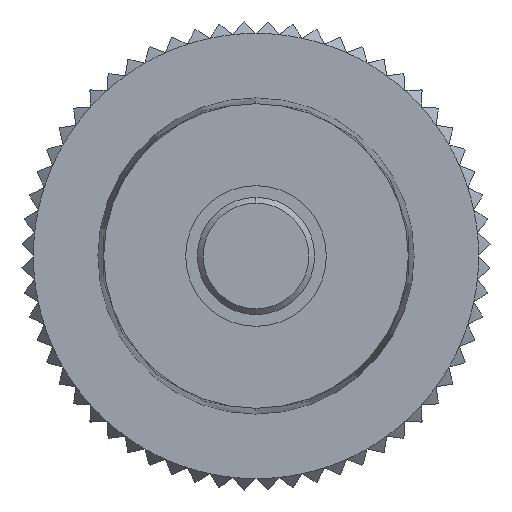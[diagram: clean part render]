
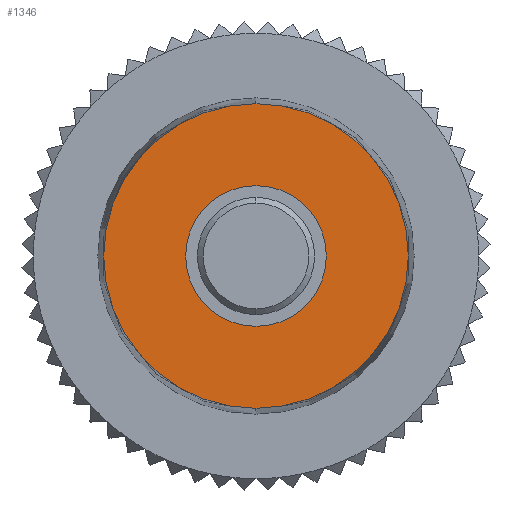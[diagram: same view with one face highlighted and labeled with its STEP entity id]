
A CAD part, front view. The second image highlights one B-rep face of the part: STEP entity #1346.
In plain terms, the highlighted planar face has unit normal (0, -1, 0).
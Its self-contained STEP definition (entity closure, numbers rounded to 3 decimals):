
#1346 = ADVANCED_FACE ( 'NONE', ( #5452, #5450 ), #5502, .T. ) ;
#1347 = EDGE_LOOP ( 'NONE', ( #1348, #1350 ) ) ;
#1348 = ORIENTED_EDGE ( 'NONE', *, *, #1349, .F. ) ;
#1349 = EDGE_CURVE ( 'NONE', #2440, #2493, #5492, .T. ) ;
#1350 = ORIENTED_EDGE ( 'NONE', *, *, #2439, .F. ) ;
#1351 = EDGE_LOOP ( 'NONE', ( #1412, #1414 ) ) ;
#1412 = ORIENTED_EDGE ( 'NONE', *, *, #1413, .T. ) ;
#1413 = EDGE_CURVE ( 'NONE', #2426, #2425, #5505, .T. ) ;
#1414 = ORIENTED_EDGE ( 'NONE', *, *, #2424, .T. ) ;
#2424 = EDGE_CURVE ( 'NONE', #2425, #2426, #6811, .T. ) ;
#2425 = VERTEX_POINT ( 'NONE', #6806 ) ;
#2426 = VERTEX_POINT ( 'NONE', #6805 ) ;
#2439 = EDGE_CURVE ( 'NONE', #2493, #2440, #6787, .T. ) ;
#2440 = VERTEX_POINT ( 'NONE', #6845 ) ;
#2493 = VERTEX_POINT ( 'NONE', #6909 ) ;
#5450 = FACE_OUTER_BOUND ( 'NONE', #1351, .T. ) ;
#5452 = FACE_BOUND ( 'NONE', #1347, .T. ) ;
#5489 = DIRECTION ( 'NONE',  ( 0., 0., -1. ) ) ;
#5490 = DIRECTION ( 'NONE',  ( 0., -1., 0. ) ) ;
#5491 = AXIS2_PLACEMENT_3D ( 'NONE', #5497, #5490, #5489 ) ;
#5492 = CIRCLE ( 'NONE', #5491, 3. ) ;
#5493 = DIRECTION ( 'NONE',  ( 0., 0., -1. ) ) ;
#5494 = DIRECTION ( 'NONE',  ( 0., -1., 0. ) ) ;
#5495 = CARTESIAN_POINT ( 'NONE',  ( 0., 0., 0. ) ) ;
#5496 = AXIS2_PLACEMENT_3D ( 'NONE', #5495, #5494, #5493 ) ;
#5497 = CARTESIAN_POINT ( 'NONE',  ( 0., 0., 0. ) ) ;
#5502 = PLANE ( 'NONE',  #5496 ) ;
#5503 = DIRECTION ( 'NONE',  ( 0., -1., 0. ) ) ;
#5504 = AXIS2_PLACEMENT_3D ( 'NONE', #5509, #5503, #5565 ) ;
#5505 = CIRCLE ( 'NONE', #5504, 6.5 ) ;
#5509 = CARTESIAN_POINT ( 'NONE',  ( 0., 0., 0. ) ) ;
#5565 = DIRECTION ( 'NONE',  ( 0., 0., -1. ) ) ;
#6787 = CIRCLE ( 'NONE', #6849, 3. ) ;
#6805 = CARTESIAN_POINT ( 'NONE',  ( 0., 0., 6.5 ) ) ;
#6806 = CARTESIAN_POINT ( 'NONE',  ( 0., 0., -6.5 ) ) ;
#6807 = DIRECTION ( 'NONE',  ( 0., 0., -1. ) ) ;
#6808 = DIRECTION ( 'NONE',  ( 0., -1., 0. ) ) ;
#6809 = CARTESIAN_POINT ( 'NONE',  ( 0., 0., 0. ) ) ;
#6810 = AXIS2_PLACEMENT_3D ( 'NONE', #6809, #6808, #6807 ) ;
#6811 = CIRCLE ( 'NONE', #6810, 6.5 ) ;
#6845 = CARTESIAN_POINT ( 'NONE',  ( 0., 0., -3. ) ) ;
#6846 = DIRECTION ( 'NONE',  ( 0., 0., -1. ) ) ;
#6847 = DIRECTION ( 'NONE',  ( 0., -1., 0. ) ) ;
#6848 = CARTESIAN_POINT ( 'NONE',  ( 0., 0., 0. ) ) ;
#6849 = AXIS2_PLACEMENT_3D ( 'NONE', #6848, #6847, #6846 ) ;
#6909 = CARTESIAN_POINT ( 'NONE',  ( 0., 0., 3. ) ) ;
